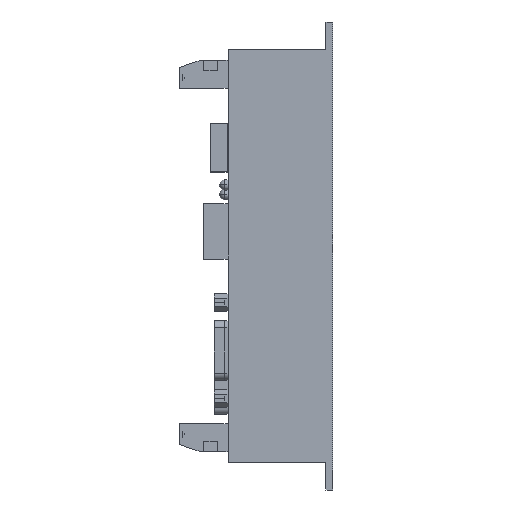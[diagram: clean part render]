
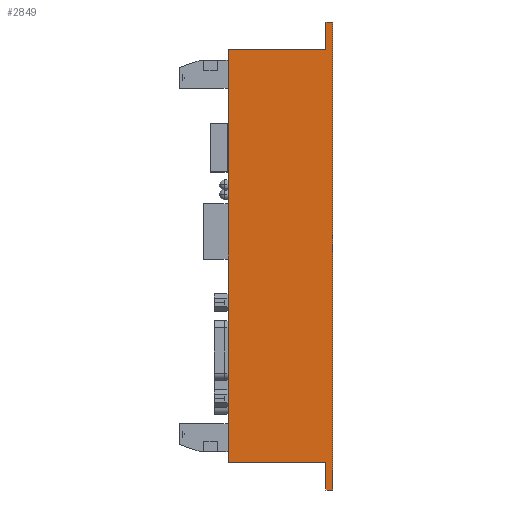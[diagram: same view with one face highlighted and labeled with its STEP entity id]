
A CAD part, left-side view. The second image highlights one B-rep face of the part: STEP entity #2849.
In plain terms, the highlighted planar face has unit normal (-1, 0, 0).
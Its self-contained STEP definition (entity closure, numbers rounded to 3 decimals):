
#893 = DIRECTION ( 'NONE',  ( 0., 0., -1. ) ) ;
#1104 = ORIENTED_EDGE ( 'NONE', *, *, #12319, .F. ) ;
#2849 = ADVANCED_FACE ( 'NONE', ( #44967 ), #73171, .F. ) ;
#4665 = DIRECTION ( 'NONE',  ( 0., 0., -1. ) ) ;
#5037 = LINE ( 'NONE', #9383, #64067 ) ;
#7013 = CARTESIAN_POINT ( 'NONE',  ( 0., 2., -50.297 ) ) ;
#7268 = DIRECTION ( 'NONE',  ( 0., 1., 0. ) ) ;
#9383 = CARTESIAN_POINT ( 'NONE',  ( 0., 30., 67.703 ) ) ;
#11464 = DIRECTION ( 'NONE',  ( 0., 1., 0. ) ) ;
#12319 = EDGE_CURVE ( 'NONE', #20214, #36702, #48723, .T. ) ;
#14170 = EDGE_CURVE ( 'NONE', #14436, #63711, #49141, .T. ) ;
#14436 = VERTEX_POINT ( 'NONE', #54482 ) ;
#16441 = EDGE_CURVE ( 'NONE', #65728, #23803, #46241, .T. ) ;
#16820 = CARTESIAN_POINT ( 'NONE',  ( 0., 0., 75.703 ) ) ;
#17057 = CARTESIAN_POINT ( 'NONE',  ( 0., 2., 75.703 ) ) ;
#17658 = VECTOR ( 'NONE', #71335, 1000. ) ;
#18316 = VECTOR ( 'NONE', #893, 1000. ) ;
#18392 = EDGE_CURVE ( 'NONE', #23803, #14436, #53151, .T. ) ;
#19740 = EDGE_CURVE ( 'NONE', #31298, #49292, #27915, .T. ) ;
#19969 = ORIENTED_EDGE ( 'NONE', *, *, #14170, .F. ) ;
#20214 = VERTEX_POINT ( 'NONE', #16820 ) ;
#21059 = CARTESIAN_POINT ( 'NONE',  ( 0., 2., -50.297 ) ) ;
#22953 = ORIENTED_EDGE ( 'NONE', *, *, #16441, .F. ) ;
#23659 = CARTESIAN_POINT ( 'NONE',  ( 0., 30., 67.703 ) ) ;
#23803 = VERTEX_POINT ( 'NONE', #21059 ) ;
#24550 = VECTOR ( 'NONE', #11464, 1000. ) ;
#25891 = DIRECTION ( 'NONE',  ( 0., 0., 1. ) ) ;
#27175 = DIRECTION ( 'NONE',  ( 0., -1., 0. ) ) ;
#27915 = LINE ( 'NONE', #42886, #71780 ) ;
#30879 = ORIENTED_EDGE ( 'NONE', *, *, #19740, .F. ) ;
#31298 = VERTEX_POINT ( 'NONE', #31855 ) ;
#31855 = CARTESIAN_POINT ( 'NONE',  ( 0., 2., 67.703 ) ) ;
#32085 = LINE ( 'NONE', #61436, #33859 ) ;
#33011 = EDGE_CURVE ( 'NONE', #36702, #65728, #54945, .T. ) ;
#33131 = CARTESIAN_POINT ( 'NONE',  ( 0., 0., 0. ) ) ;
#33273 = DIRECTION ( 'NONE',  ( 0., 0., 1. ) ) ;
#33859 = VECTOR ( 'NONE', #27175, 1000. ) ;
#33907 = VECTOR ( 'NONE', #33273, 1000. ) ;
#34185 = ORIENTED_EDGE ( 'NONE', *, *, #33011, .F. ) ;
#36590 = EDGE_LOOP ( 'NONE', ( #65551, #30879, #62080, #19969, #41291, #22953, #34185, #1104 ) ) ;
#36702 = VERTEX_POINT ( 'NONE', #45059 ) ;
#37053 = CARTESIAN_POINT ( 'NONE',  ( 0., 2., -58.297 ) ) ;
#38865 = DIRECTION ( 'NONE',  ( 1., 0., 0. ) ) ;
#39626 = CARTESIAN_POINT ( 'NONE',  ( 0., 2., -58.297 ) ) ;
#41291 = ORIENTED_EDGE ( 'NONE', *, *, #18392, .F. ) ;
#42886 = CARTESIAN_POINT ( 'NONE',  ( 0., 2., 67.703 ) ) ;
#44967 = FACE_OUTER_BOUND ( 'NONE', #36590, .T. ) ;
#45059 = CARTESIAN_POINT ( 'NONE',  ( 0., 0., -58.297 ) ) ;
#46241 = LINE ( 'NONE', #37053, #17658 ) ;
#48723 = LINE ( 'NONE', #52067, #18316 ) ;
#49141 = LINE ( 'NONE', #73310, #33907 ) ;
#49292 = VERTEX_POINT ( 'NONE', #17057 ) ;
#51397 = CARTESIAN_POINT ( 'NONE',  ( 0., 0., -58.297 ) ) ;
#52067 = CARTESIAN_POINT ( 'NONE',  ( 0., 0., 75.703 ) ) ;
#53151 = LINE ( 'NONE', #7013, #64842 ) ;
#54482 = CARTESIAN_POINT ( 'NONE',  ( 0., 30., -50.297 ) ) ;
#54945 = LINE ( 'NONE', #51397, #24550 ) ;
#61436 = CARTESIAN_POINT ( 'NONE',  ( 0., 2., 75.703 ) ) ;
#62080 = ORIENTED_EDGE ( 'NONE', *, *, #67250, .F. ) ;
#63711 = VERTEX_POINT ( 'NONE', #23659 ) ;
#64067 = VECTOR ( 'NONE', #66879, 1000. ) ;
#64842 = VECTOR ( 'NONE', #7268, 1000. ) ;
#65551 = ORIENTED_EDGE ( 'NONE', *, *, #73439, .F. ) ;
#65728 = VERTEX_POINT ( 'NONE', #39626 ) ;
#66879 = DIRECTION ( 'NONE',  ( 0., -1., 0. ) ) ;
#67250 = EDGE_CURVE ( 'NONE', #63711, #31298, #5037, .T. ) ;
#68391 = AXIS2_PLACEMENT_3D ( 'NONE', #33131, #38865, #4665 ) ;
#71335 = DIRECTION ( 'NONE',  ( 0., 0., 1. ) ) ;
#71780 = VECTOR ( 'NONE', #25891, 1000. ) ;
#73171 = PLANE ( 'NONE',  #68391 ) ;
#73310 = CARTESIAN_POINT ( 'NONE',  ( 0., 30., -50.297 ) ) ;
#73439 = EDGE_CURVE ( 'NONE', #49292, #20214, #32085, .T. ) ;
